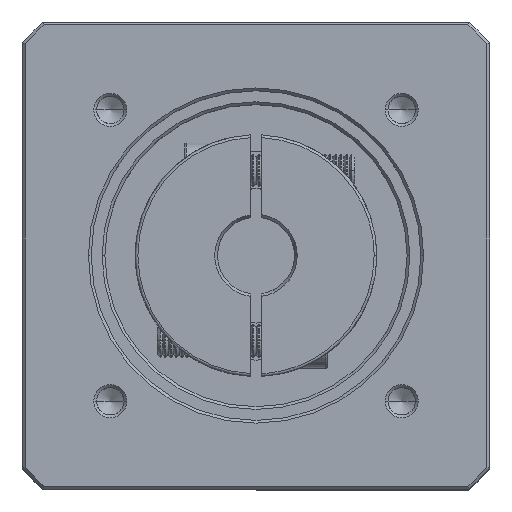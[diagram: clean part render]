
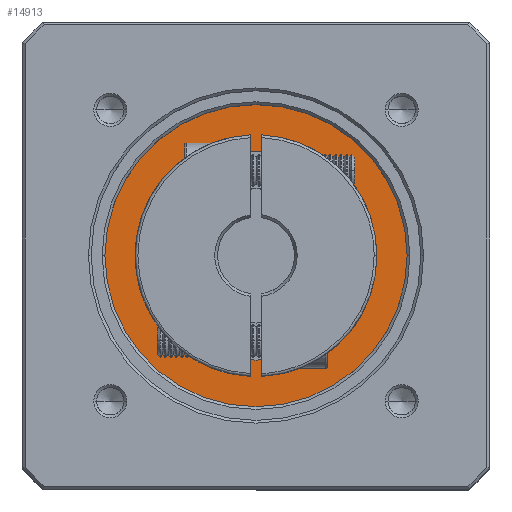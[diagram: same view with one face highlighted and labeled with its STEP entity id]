
A CAD part, top view. The second image highlights one B-rep face of the part: STEP entity #14913.
In plain terms, the highlighted planar face has unit normal (0, 0, 1).
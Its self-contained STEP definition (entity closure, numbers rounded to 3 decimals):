
#465 = DIRECTION ( 'NONE',  ( 1., 0., 0. ) ) ;
#2048 = ORIENTED_EDGE ( 'NONE', *, *, #8070, .T. ) ;
#8070 = EDGE_CURVE ( 'NONE', #109466, #62883, #20689, .T. ) ;
#14913 = ADVANCED_FACE ( 'NONE', ( #64999, #99417 ), #89930, .T. ) ;
#16776 = CARTESIAN_POINT ( 'NONE',  ( -47.717, 38.255, -10.059 ) ) ;
#19959 = CARTESIAN_POINT ( 'NONE',  ( -20.217, 38.255, -10.059 ) ) ;
#20689 = CIRCLE ( 'NONE', #65433, 19. ) ;
#22928 = CARTESIAN_POINT ( 'NONE',  ( -75.217, 38.255, -10.059 ) ) ;
#29453 = DIRECTION ( 'NONE',  ( 0., 0., 1. ) ) ;
#31843 = DIRECTION ( 'NONE',  ( 0., 0., -1. ) ) ;
#35298 = EDGE_LOOP ( 'NONE', ( #102275, #45631 ) ) ;
#37009 = AXIS2_PLACEMENT_3D ( 'NONE', #49170, #29453, #99515 ) ;
#41121 = EDGE_CURVE ( 'NONE', #128936, #58179, #71109, .T. ) ;
#42383 = CARTESIAN_POINT ( 'NONE',  ( -47.717, 38.255, -10.059 ) ) ;
#44408 = AXIS2_PLACEMENT_3D ( 'NONE', #105199, #67105, #126717 ) ;
#45631 = ORIENTED_EDGE ( 'NONE', *, *, #112828, .T. ) ;
#49170 = CARTESIAN_POINT ( 'NONE',  ( -47.717, 38.255, -10.059 ) ) ;
#58179 = VERTEX_POINT ( 'NONE', #19959 ) ;
#62499 = DIRECTION ( 'NONE',  ( -1., 0., 0. ) ) ;
#62883 = VERTEX_POINT ( 'NONE', #127892 ) ;
#64999 = FACE_OUTER_BOUND ( 'NONE', #35298, .T. ) ;
#65433 = AXIS2_PLACEMENT_3D ( 'NONE', #42383, #112517, #62499 ) ;
#67105 = DIRECTION ( 'NONE',  ( 0., 0., 1. ) ) ;
#71109 = CIRCLE ( 'NONE', #37009, 27.5 ) ;
#77340 = ORIENTED_EDGE ( 'NONE', *, *, #119187, .T. ) ;
#79694 = EDGE_LOOP ( 'NONE', ( #2048, #77340 ) ) ;
#89930 = PLANE ( 'NONE',  #102442 ) ;
#91885 = CARTESIAN_POINT ( 'NONE',  ( -47.717, 38.255, -10.059 ) ) ;
#94489 = CIRCLE ( 'NONE', #101856, 19. ) ;
#99417 = FACE_BOUND ( 'NONE', #79694, .T. ) ;
#99515 = DIRECTION ( 'NONE',  ( -1., 0., 0. ) ) ;
#101856 = AXIS2_PLACEMENT_3D ( 'NONE', #91885, #31843, #101869 ) ;
#101869 = DIRECTION ( 'NONE',  ( -1., 0., 0. ) ) ;
#102275 = ORIENTED_EDGE ( 'NONE', *, *, #41121, .T. ) ;
#102442 = AXIS2_PLACEMENT_3D ( 'NONE', #16776, #112223, #465 ) ;
#105199 = CARTESIAN_POINT ( 'NONE',  ( -47.717, 38.255, -10.059 ) ) ;
#109466 = VERTEX_POINT ( 'NONE', #123406 ) ;
#112223 = DIRECTION ( 'NONE',  ( 0., 0., 1. ) ) ;
#112517 = DIRECTION ( 'NONE',  ( 0., 0., -1. ) ) ;
#112828 = EDGE_CURVE ( 'NONE', #58179, #128936, #122609, .T. ) ;
#119187 = EDGE_CURVE ( 'NONE', #62883, #109466, #94489, .T. ) ;
#122609 = CIRCLE ( 'NONE', #44408, 27.5 ) ;
#123406 = CARTESIAN_POINT ( 'NONE',  ( -66.717, 38.255, -10.059 ) ) ;
#126717 = DIRECTION ( 'NONE',  ( -1., 0., 0. ) ) ;
#127892 = CARTESIAN_POINT ( 'NONE',  ( -28.717, 38.255, -10.059 ) ) ;
#128936 = VERTEX_POINT ( 'NONE', #22928 ) ;
